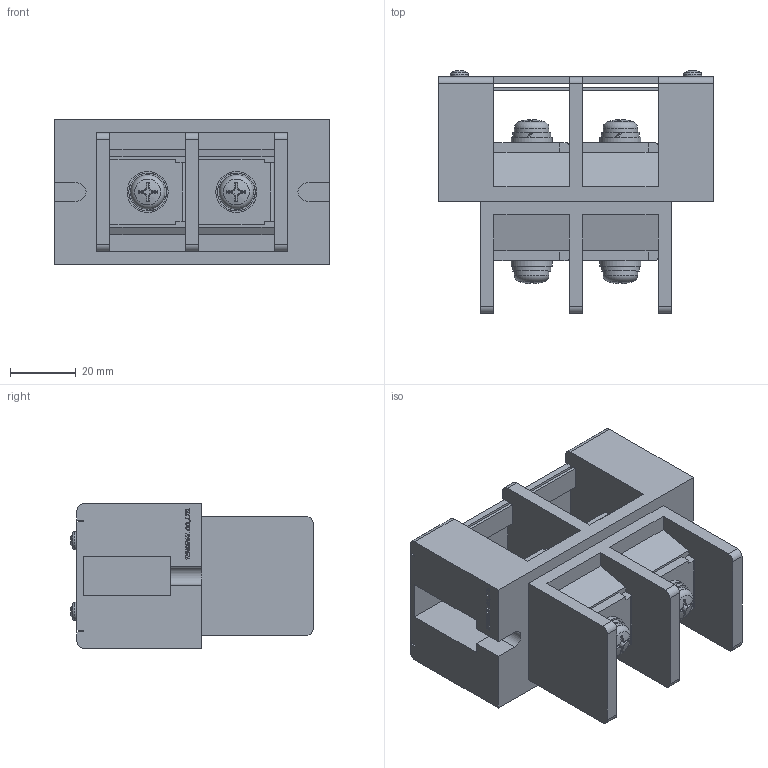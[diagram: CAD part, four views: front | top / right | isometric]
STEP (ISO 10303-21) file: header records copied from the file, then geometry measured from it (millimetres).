
FILE_DESCRIPTION(/* description */ ('Alibre Inc.'),/* implementation_level */ '2;1');
FILE_NAME(/* name */ 'export0',/* time_stamp */ '2016-04-05T18:07:06+09:00',/* author */ (''),/* organization */ (''),/* preprocessor_version */ 'ST-DEVELOPER v14',/* originating_system */ 'Alibre',/* authorisation */ '');
FILE_SCHEMA (('CONFIG_CONTROL_DESIGN'));
Length unit declared in the file: centimetre
Products named in the file (1): ID_1
Bounding box: 84 x 73.94 x 44 mm (x, y, z)
Volume: 102601.8 mm3; surface area: 43017.7 mm2
Topology: 4 solids, 6 shells, 528 faces, 1429 edges, 938 vertices
Faces by surface type: plane 376, cylinder 60, bspline 52, cone 28, torus 6, sphere 6
Full cylindrical faces by diameter (mm): 3 x4, 5.5 x2, 6 x4, 8 x4, 10.5 x4, 12.5 x4
Entity records: 15894 total; most frequent: CARTESIAN_POINT 3450, ORIENTED_EDGE 2778, DIRECTION 1998, EDGE_CURVE 1389, VECTOR 946, LINE 946, VERTEX_POINT 930, AXIS2_PLACEMENT_3D 710
